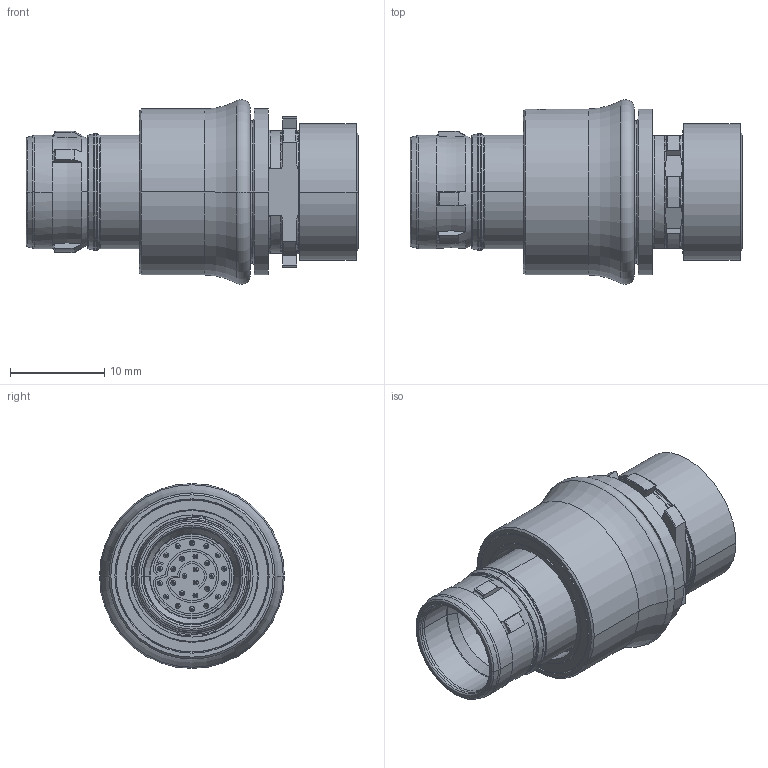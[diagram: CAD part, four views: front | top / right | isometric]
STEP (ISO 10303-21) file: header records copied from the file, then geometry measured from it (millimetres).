
FILE_DESCRIPTION((''),'2;1');
FILE_NAME('00051124-A','2020-10-27T13:35:53',('EUnterhaslberger'),(''),'CREO PARAMETRIC BY PTC INC, 2018300','CREO PARAMETRIC BY PTC INC, 2018300','');
FILE_SCHEMA(('AP242_MANAGED_MODEL_BASED_3D_ENGINEERING_MIM_LF { 1 0 10303 442 1 1 4 }'));
Length unit declared in the file: millimetre
Products named in the file (1): 00051124-A
Bounding box: 35.2 x 19.6 x 19.6 mm (x, y, z)
Volume: 4084.8 mm3; surface area: 8877.5 mm2
Topology: 2 solids, 4 shells, 1358 faces, 3497 edges, 2181 vertices
Faces by surface type: cylinder 587, plane 316, cone 205, torus 146, bspline 52, sphere 52
Entity records: 53738 total; most frequent: CARTESIAN_POINT 10637, DIRECTION 7587, ORIENTED_EDGE 6786, EDGE_CURVE 3393, AXIS2_PLACEMENT_3D 3207, VERTEX_POINT 2181, CIRCLE 1901, EDGE_LOOP 1520
